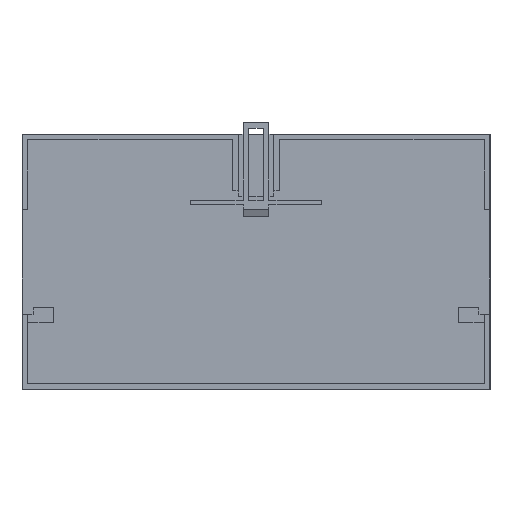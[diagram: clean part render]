
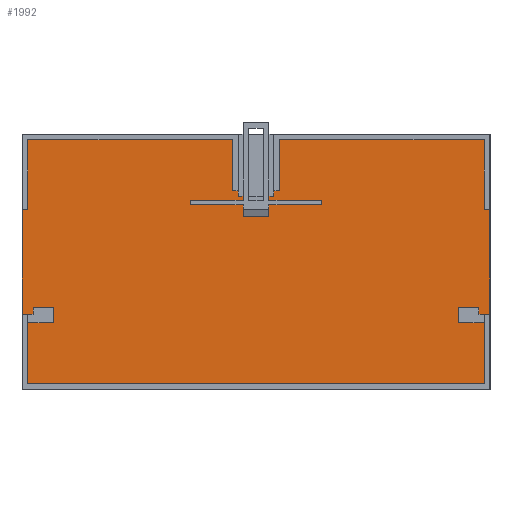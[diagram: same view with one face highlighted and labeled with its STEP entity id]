
A CAD part, front view. The second image highlights one B-rep face of the part: STEP entity #1992.
In plain terms, the highlighted planar face has unit normal (0, -1, 0).
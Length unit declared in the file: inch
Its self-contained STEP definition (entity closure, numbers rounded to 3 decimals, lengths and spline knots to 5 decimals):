
#1413=CARTESIAN_POINT('',(-3.01825,-0.15,-0.802));
#1414=VERTEX_POINT('',#1413);
#1421=CARTESIAN_POINT('',(-2.67825,-0.15,-0.802));
#1422=VERTEX_POINT('',#1421);
#1423=CARTESIAN_POINT('',(-2.67825,-0.15,-0.802));
#1424=DIRECTION('',(-1.0,0.0,0.0));
#1425=VECTOR('',#1424,0.34);
#1426=LINE('',#1423,#1425);
#1427=EDGE_CURVE('',#1422,#1414,#1426,.T.);
#1529=CARTESIAN_POINT('',(-2.67825,-0.15,-0.694));
#1530=VERTEX_POINT('',#1529);
#1537=CARTESIAN_POINT('',(-3.09325,-0.15,-0.694));
#1538=VERTEX_POINT('',#1537);
#1539=CARTESIAN_POINT('',(-3.09325,-0.15,-0.694));
#1540=DIRECTION('',(1.0,0.0,0.0));
#1541=VECTOR('',#1540,0.415);
#1542=LINE('',#1539,#1541);
#1543=EDGE_CURVE('',#1538,#1530,#1542,.T.);
#1579=CARTESIAN_POINT('',(-2.67825,-0.15,-0.694));
#1580=DIRECTION('',(0.0,0.0,-1.0));
#1581=VECTOR('',#1580,0.108);
#1582=LINE('',#1579,#1581);
#1583=EDGE_CURVE('',#1530,#1422,#1582,.T.);
#1670=CARTESIAN_POINT('',(2.67825,-0.15,-0.802));
#1671=VERTEX_POINT('',#1670);
#1678=CARTESIAN_POINT('',(3.01825,-0.15,-0.802));
#1679=VERTEX_POINT('',#1678);
#1680=CARTESIAN_POINT('',(3.01825,-0.15,-0.802));
#1681=DIRECTION('',(-1.0,0.0,0.0));
#1682=VECTOR('',#1681,0.34);
#1683=LINE('',#1680,#1682);
#1684=EDGE_CURVE('',#1679,#1671,#1683,.T.);
#1717=CARTESIAN_POINT('',(2.67825,-0.15,-0.694));
#1718=VERTEX_POINT('',#1717);
#1725=CARTESIAN_POINT('',(2.67825,-0.15,-0.802));
#1726=DIRECTION('',(0.0,0.0,1.0));
#1727=VECTOR('',#1726,0.108);
#1728=LINE('',#1725,#1727);
#1729=EDGE_CURVE('',#1671,#1718,#1728,.T.);
#1800=CARTESIAN_POINT('',(0.,-0.15,0.));
#1801=DIRECTION('',(0.0,1.0,0.0));
#1802=DIRECTION('',(0.0,0.0,1.0));
#1803=AXIS2_PLACEMENT_3D('',#1800,#1801,#1802);
#1804=PLANE('',#1803);
#1805=ORIENTED_EDGE('',*,*,#1583,.T.);
#1806=ORIENTED_EDGE('',*,*,#1427,.T.);
#1807=CARTESIAN_POINT('',(-3.01825,-0.15,-1.6145));
#1808=VERTEX_POINT('',#1807);
#1809=CARTESIAN_POINT('',(-3.01825,-0.15,-0.802));
#1810=DIRECTION('',(0.0,0.0,-1.0));
#1811=VECTOR('',#1810,0.8125);
#1812=LINE('',#1809,#1811);
#1813=EDGE_CURVE('',#1414,#1808,#1812,.T.);
#1814=ORIENTED_EDGE('',*,*,#1813,.T.);
#1815=CARTESIAN_POINT('',(3.01825,-0.15,-1.6145));
#1816=VERTEX_POINT('',#1815);
#1817=CARTESIAN_POINT('',(-3.01825,-0.15,-1.6145));
#1818=DIRECTION('',(1.0,0.0,0.0));
#1819=VECTOR('',#1818,6.0365);
#1820=LINE('',#1817,#1819);
#1821=EDGE_CURVE('',#1808,#1816,#1820,.T.);
#1822=ORIENTED_EDGE('',*,*,#1821,.T.);
#1823=CARTESIAN_POINT('',(3.01825,-0.15,-1.6145));
#1824=DIRECTION('',(0.0,0.0,1.0));
#1825=VECTOR('',#1824,0.8125);
#1826=LINE('',#1823,#1825);
#1827=EDGE_CURVE('',#1816,#1679,#1826,.T.);
#1828=ORIENTED_EDGE('',*,*,#1827,.T.);
#1829=ORIENTED_EDGE('',*,*,#1684,.T.);
#1830=ORIENTED_EDGE('',*,*,#1729,.T.);
#1831=CARTESIAN_POINT('',(3.09325,-0.15,-0.694));
#1832=VERTEX_POINT('',#1831);
#1833=CARTESIAN_POINT('',(2.67825,-0.15,-0.694));
#1834=DIRECTION('',(1.0,0.0,0.0));
#1835=VECTOR('',#1834,0.415);
#1836=LINE('',#1833,#1835);
#1837=EDGE_CURVE('',#1718,#1832,#1836,.T.);
#1838=ORIENTED_EDGE('',*,*,#1837,.T.);
#1839=CARTESIAN_POINT('',(3.09325,-0.15,0.694));
#1840=VERTEX_POINT('',#1839);
#1841=CARTESIAN_POINT('',(3.09325,-0.15,0.694));
#1842=DIRECTION('',(0.0,0.0,-1.0));
#1843=VECTOR('',#1842,1.388);
#1844=LINE('',#1841,#1843);
#1845=EDGE_CURVE('',#1840,#1832,#1844,.T.);
#1846=ORIENTED_EDGE('',*,*,#1845,.F.);
#1847=CARTESIAN_POINT('',(3.01825,-0.15,0.694));
#1848=VERTEX_POINT('',#1847);
#1849=CARTESIAN_POINT('',(3.01825,-0.15,0.694));
#1850=DIRECTION('',(1.0,0.0,0.0));
#1851=VECTOR('',#1850,0.075);
#1852=LINE('',#1849,#1851);
#1853=EDGE_CURVE('',#1848,#1840,#1852,.T.);
#1854=ORIENTED_EDGE('',*,*,#1853,.F.);
#1855=CARTESIAN_POINT('',(3.01825,-0.15,1.6145));
#1856=VERTEX_POINT('',#1855);
#1857=CARTESIAN_POINT('',(3.01825,-0.15,0.694));
#1858=DIRECTION('',(0.0,0.0,1.0));
#1859=VECTOR('',#1858,0.9205);
#1860=LINE('',#1857,#1859);
#1861=EDGE_CURVE('',#1848,#1856,#1860,.T.);
#1862=ORIENTED_EDGE('',*,*,#1861,.T.);
#1863=CARTESIAN_POINT('',(0.31,-0.15,1.6145));
#1864=VERTEX_POINT('',#1863);
#1865=CARTESIAN_POINT('',(3.01825,-0.15,1.6145));
#1866=DIRECTION('',(-1.0,0.0,0.0));
#1867=VECTOR('',#1866,2.70825);
#1868=LINE('',#1865,#1867);
#1869=EDGE_CURVE('',#1856,#1864,#1868,.T.);
#1870=ORIENTED_EDGE('',*,*,#1869,.T.);
#1871=CARTESIAN_POINT('',(0.31,-0.15,0.9395));
#1872=VERTEX_POINT('',#1871);
#1873=CARTESIAN_POINT('',(0.31,-0.15,1.6145));
#1874=DIRECTION('',(0.0,0.0,-1.0));
#1875=VECTOR('',#1874,0.675);
#1876=LINE('',#1873,#1875);
#1877=EDGE_CURVE('',#1864,#1872,#1876,.T.);
#1878=ORIENTED_EDGE('',*,*,#1877,.T.);
#1879=CARTESIAN_POINT('',(0.235,-0.15,0.9395));
#1880=VERTEX_POINT('',#1879);
#1881=CARTESIAN_POINT('',(0.31,-0.15,0.9395));
#1882=DIRECTION('',(-1.0,0.0,0.0));
#1883=VECTOR('',#1882,0.075);
#1884=LINE('',#1881,#1883);
#1885=EDGE_CURVE('',#1872,#1880,#1884,.T.);
#1886=ORIENTED_EDGE('',*,*,#1885,.T.);
#1887=CARTESIAN_POINT('',(0.235,-0.15,0.8645));
#1888=VERTEX_POINT('',#1887);
#1889=CARTESIAN_POINT('',(0.235,-0.15,0.9395));
#1890=DIRECTION('',(0.0,0.0,-1.0));
#1891=VECTOR('',#1890,0.075);
#1892=LINE('',#1889,#1891);
#1893=EDGE_CURVE('',#1880,#1888,#1892,.T.);
#1894=ORIENTED_EDGE('',*,*,#1893,.T.);
#1895=CARTESIAN_POINT('',(0.17,-0.15,0.8645));
#1896=VERTEX_POINT('',#1895);
#1897=CARTESIAN_POINT('',(0.235,-0.15,0.8645));
#1898=DIRECTION('',(-1.0,0.0,0.0));
#1899=VECTOR('',#1898,0.065);
#1900=LINE('',#1897,#1899);
#1901=EDGE_CURVE('',#1888,#1896,#1900,.T.);
#1902=ORIENTED_EDGE('',*,*,#1901,.T.);
#1903=CARTESIAN_POINT('',(0.17,-0.15,0.694));
#1904=VERTEX_POINT('',#1903);
#1905=CARTESIAN_POINT('',(0.17,-0.15,0.8645));
#1906=DIRECTION('',(0.0,0.0,-1.0));
#1907=VECTOR('',#1906,0.1705);
#1908=LINE('',#1905,#1907);
#1909=EDGE_CURVE('',#1896,#1904,#1908,.T.);
#1910=ORIENTED_EDGE('',*,*,#1909,.T.);
#1911=CARTESIAN_POINT('',(-0.17,-0.15,0.694));
#1912=VERTEX_POINT('',#1911);
#1913=CARTESIAN_POINT('',(0.17,-0.15,0.694));
#1914=DIRECTION('',(-1.0,0.0,0.0));
#1915=VECTOR('',#1914,0.34);
#1916=LINE('',#1913,#1915);
#1917=EDGE_CURVE('',#1904,#1912,#1916,.T.);
#1918=ORIENTED_EDGE('',*,*,#1917,.T.);
#1919=CARTESIAN_POINT('',(-0.17,-0.15,0.8645));
#1920=VERTEX_POINT('',#1919);
#1921=CARTESIAN_POINT('',(-0.17,-0.15,0.694));
#1922=DIRECTION('',(0.0,0.0,1.0));
#1923=VECTOR('',#1922,0.1705);
#1924=LINE('',#1921,#1923);
#1925=EDGE_CURVE('',#1912,#1920,#1924,.T.);
#1926=ORIENTED_EDGE('',*,*,#1925,.T.);
#1927=CARTESIAN_POINT('',(-0.235,-0.15,0.8645));
#1928=VERTEX_POINT('',#1927);
#1929=CARTESIAN_POINT('',(-0.17,-0.15,0.8645));
#1930=DIRECTION('',(-1.0,0.0,0.0));
#1931=VECTOR('',#1930,0.065);
#1932=LINE('',#1929,#1931);
#1933=EDGE_CURVE('',#1920,#1928,#1932,.T.);
#1934=ORIENTED_EDGE('',*,*,#1933,.T.);
#1935=CARTESIAN_POINT('',(-0.235,-0.15,0.9395));
#1936=VERTEX_POINT('',#1935);
#1937=CARTESIAN_POINT('',(-0.235,-0.15,0.8645));
#1938=DIRECTION('',(0.0,0.0,1.0));
#1939=VECTOR('',#1938,0.075);
#1940=LINE('',#1937,#1939);
#1941=EDGE_CURVE('',#1928,#1936,#1940,.T.);
#1942=ORIENTED_EDGE('',*,*,#1941,.T.);
#1943=CARTESIAN_POINT('',(-0.31,-0.15,0.9395));
#1944=VERTEX_POINT('',#1943);
#1945=CARTESIAN_POINT('',(-0.235,-0.15,0.9395));
#1946=DIRECTION('',(-1.0,0.0,0.0));
#1947=VECTOR('',#1946,0.075);
#1948=LINE('',#1945,#1947);
#1949=EDGE_CURVE('',#1936,#1944,#1948,.T.);
#1950=ORIENTED_EDGE('',*,*,#1949,.T.);
#1951=CARTESIAN_POINT('',(-0.31,-0.15,1.6145));
#1952=VERTEX_POINT('',#1951);
#1953=CARTESIAN_POINT('',(-0.31,-0.15,0.9395));
#1954=DIRECTION('',(0.0,0.0,1.0));
#1955=VECTOR('',#1954,0.675);
#1956=LINE('',#1953,#1955);
#1957=EDGE_CURVE('',#1944,#1952,#1956,.T.);
#1958=ORIENTED_EDGE('',*,*,#1957,.T.);
#1959=CARTESIAN_POINT('',(-3.01825,-0.15,1.6145));
#1960=VERTEX_POINT('',#1959);
#1961=CARTESIAN_POINT('',(-0.31,-0.15,1.6145));
#1962=DIRECTION('',(-1.0,0.0,0.0));
#1963=VECTOR('',#1962,2.70825);
#1964=LINE('',#1961,#1963);
#1965=EDGE_CURVE('',#1952,#1960,#1964,.T.);
#1966=ORIENTED_EDGE('',*,*,#1965,.T.);
#1967=CARTESIAN_POINT('',(-3.01825,-0.15,0.694));
#1968=VERTEX_POINT('',#1967);
#1969=CARTESIAN_POINT('',(-3.01825,-0.15,1.6145));
#1970=DIRECTION('',(0.0,0.0,-1.0));
#1971=VECTOR('',#1970,0.9205);
#1972=LINE('',#1969,#1971);
#1973=EDGE_CURVE('',#1960,#1968,#1972,.T.);
#1974=ORIENTED_EDGE('',*,*,#1973,.T.);
#1975=CARTESIAN_POINT('',(-3.09325,-0.15,0.694));
#1976=VERTEX_POINT('',#1975);
#1977=CARTESIAN_POINT('',(-3.09325,-0.15,0.694));
#1978=DIRECTION('',(1.0,0.0,0.0));
#1979=VECTOR('',#1978,0.075);
#1980=LINE('',#1977,#1979);
#1981=EDGE_CURVE('',#1976,#1968,#1980,.T.);
#1982=ORIENTED_EDGE('',*,*,#1981,.F.);
#1983=CARTESIAN_POINT('',(-3.09325,-0.15,-0.694));
#1984=DIRECTION('',(0.0,0.0,1.0));
#1985=VECTOR('',#1984,1.388);
#1986=LINE('',#1983,#1985);
#1987=EDGE_CURVE('',#1538,#1976,#1986,.T.);
#1988=ORIENTED_EDGE('',*,*,#1987,.F.);
#1989=ORIENTED_EDGE('',*,*,#1543,.T.);
#1990=EDGE_LOOP('',(#1805,#1806,#1814,#1822,#1828,#1829,#1830,#1838,#1846,#1854,#1862,#1870,#1878,#1886,#1894,#1902,#1910,#1918,#1926,#1934,#1942,#1950,#1958,#1966,#1974,#1982,#1988,#1989));
#1991=FACE_OUTER_BOUND('',#1990,.T.);
#1992=ADVANCED_FACE('',(#1991),#1804,.F.);
